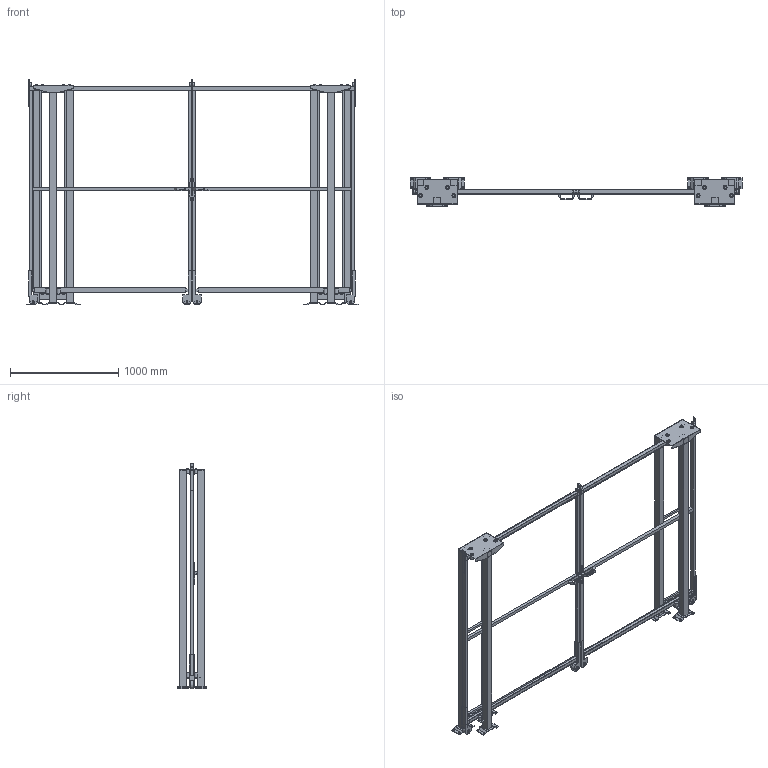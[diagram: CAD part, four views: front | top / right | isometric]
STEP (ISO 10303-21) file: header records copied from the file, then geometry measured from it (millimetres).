
FILE_DESCRIPTION(/* description */ (''),/* implementation_level */ '2;1');
FILE_NAME(/* name */ 'C:\SafeGuarding\ELABORATI\KLADKA2KR_2025-03-25-08-46-54.stp',/* time_stamp */ '2025-03-25T08:46:57+01:00',/* author */ ('admin'),/* organization */ (''),/* preprocessor_version */ 'ST-DEVELOPER v18.1',/* originating_system */ 'AutoCAD Mechanical',/* authorisation */ '');
FILE_SCHEMA (('AUTOMOTIVE_DESIGN { 1 0 10303 214 3 1 1 }'));
Length unit declared in the file: millimetre
Products named in the file (4): Product; R_VFPA.REPE30.15001900; R_VFPA.REPE20.02501900; P_VFMA.V260SDU.2020
Assembly tree (10 placements, depth 2):
  Product
    R_VFPA.REPE30.15001900  x2
    R_VFPA.REPE20.02501900  x2
    P_VFMA.V260SDU.2020  x6
Bounding box: 3071.92 x 264.01 x 2090.02 mm (x, y, z)
Volume: 68132353.5 mm3; surface area: 10053247.5 mm2
Topology: 98 solids, 120 shells, 886 faces, 2732 edges, 2722 vertices
Faces by surface type: plane 810, cylinder 76
Full cylindrical faces by diameter (mm): 9 x8, 11 x24, 13 x8, 14 x4, 30 x12, 36 x16, 80 x4
Entity records: 22759 total; most frequent: CARTESIAN_POINT 4811, DIRECTION 3469, ORIENTED_EDGE 3252, EDGE_CURVE 1724, LINE 1593, VECTOR 1593, VERTEX_POINT 1228, AXIS2_PLACEMENT_3D 938
